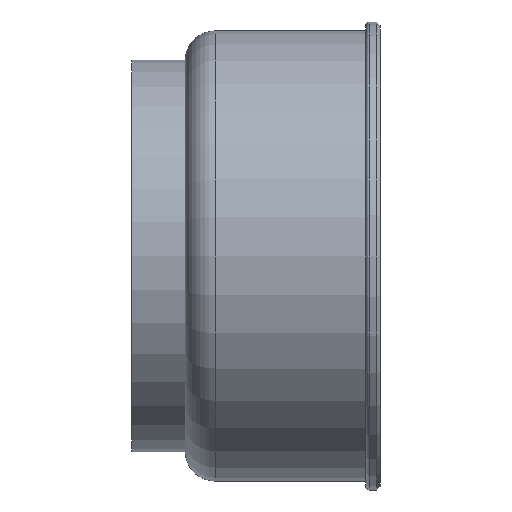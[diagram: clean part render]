
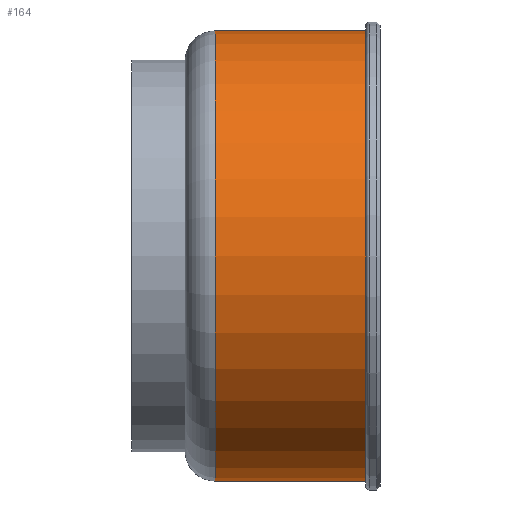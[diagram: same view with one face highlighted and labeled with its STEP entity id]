
A CAD part, front view. The second image highlights one B-rep face of the part: STEP entity #164.
In plain terms, the highlighted cylindrical face has radius 63.5 mm (diameter 127 mm), a full revolution.
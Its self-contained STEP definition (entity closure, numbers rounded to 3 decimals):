
#19=CYLINDRICAL_SURFACE($,#184,63.5);
#25=FACE_BOUND($,#57,.T.);
#42=FACE_OUTER_BOUND($,#56,.T.);
#56=EDGE_LOOP($,(#131));
#57=EDGE_LOOP($,(#132));
#84=CIRCLE($,#182,63.5);
#86=CIRCLE($,#185,63.5);
#99=VERTEX_POINT($,#275);
#101=VERTEX_POINT($,#280);
#114=EDGE_CURVE($,#99,#99,#84,.T.);
#116=EDGE_CURVE($,#101,#101,#86,.T.);
#131=ORIENTED_EDGE($,*,*,#116,.F.);
#132=ORIENTED_EDGE($,*,*,#114,.T.);
#164=ADVANCED_FACE($,(#42,#25),#19,.T.);
#182=AXIS2_PLACEMENT_3D($,#276,#215,#216);
#184=AXIS2_PLACEMENT_3D($,#279,#219,#220);
#185=AXIS2_PLACEMENT_3D($,#281,#221,#222);
#215=DIRECTION('center_axis',(1.,0.,0.));
#216=DIRECTION('ref_axis',(0.,1.,0.));
#219=DIRECTION('center_axis',(1.,0.,0.));
#220=DIRECTION('ref_axis',(0.,1.,0.));
#221=DIRECTION('center_axis',(1.,0.,0.));
#222=DIRECTION('ref_axis',(0.,1.,0.));
#275=CARTESIAN_POINT('',(23.498,63.5,0.));
#276=CARTESIAN_POINT('Origin',(23.498,0.,0.));
#279=CARTESIAN_POINT('Origin',(44.749,0.,0.));
#280=CARTESIAN_POINT('',(66.,63.5,0.));
#281=CARTESIAN_POINT('Origin',(66.,0.,0.));
